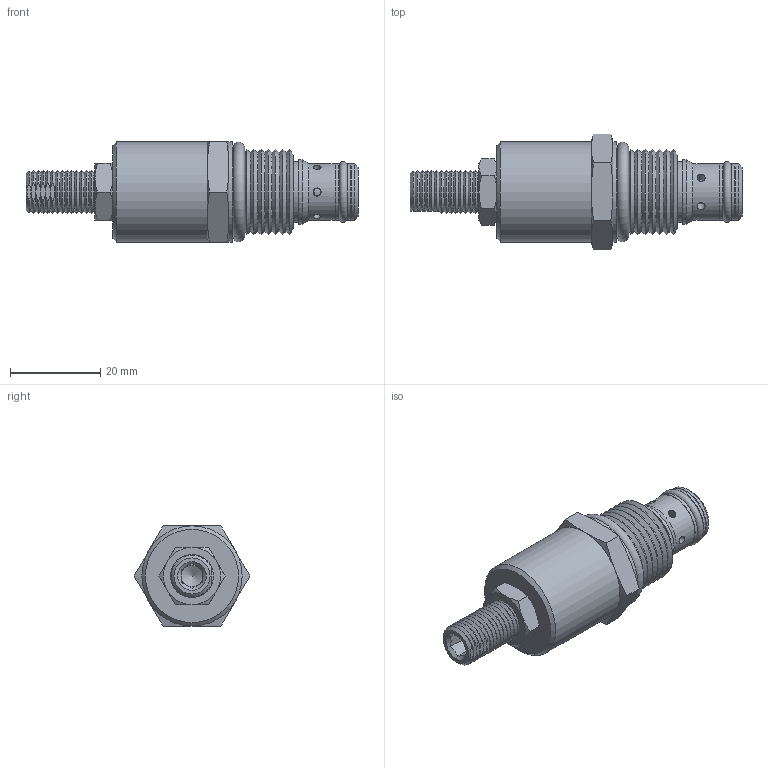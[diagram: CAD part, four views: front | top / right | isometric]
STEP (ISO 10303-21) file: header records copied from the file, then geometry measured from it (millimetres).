
FILE_DESCRIPTION(/* description */ ('HPB-NVA-00'),/* implementation_level */ '2;1');
FILE_NAME(/* name */ 'P:\EARS\EAR16xx\EAR1683 - catalog pages changes\Group1_Distribution 11_22_22\RTeck Agency_Tom\_step files\HPBNVA00.stp',/* time_stamp */ '2023-01-03T13:39:57-06:00',/* author */ ('Michael'),/* organization */ (''),/* preprocessor_version */ 'ST-DEVELOPER v17.2',/* originating_system */ 'Autodesk Inventor 2019',/* authorisation */ '');
FILE_SCHEMA (('AUTOMOTIVE_DESIGN { 1 0 10303 214 3 1 1 }'));
Length unit declared in the file: inch
Products named in the file (1): 86020169
Bounding box: 73.58 x 25.66 x 22.23 mm (x, y, z)
Volume: 17176.7 mm3; surface area: 6632.4 mm2
Topology: 5 solids, 5 shells, 147 faces, 312 edges, 179 vertices
Faces by surface type: cone 74, plane 48, cylinder 23, torus 2
Full cylindrical faces by diameter (mm): 1.778 x6, 4.775 x1, 5.563 x1, 6.096 x1, 7.861 x1, 7.95 x1, 9.843 x1, 9.893 x2, 12.586 x2, 12.624 x2, 13.5 x1, 14.275 x1, 16.751 x1, 22.225 x2
Entity records: 4408 total; most frequent: CARTESIAN_POINT 1195, DIRECTION 631, ORIENTED_EDGE 622, EDGE_CURVE 311, AXIS2_PLACEMENT_3D 267, VERTEX_POINT 179, EDGE_LOOP 173, STYLED_ITEM 152
